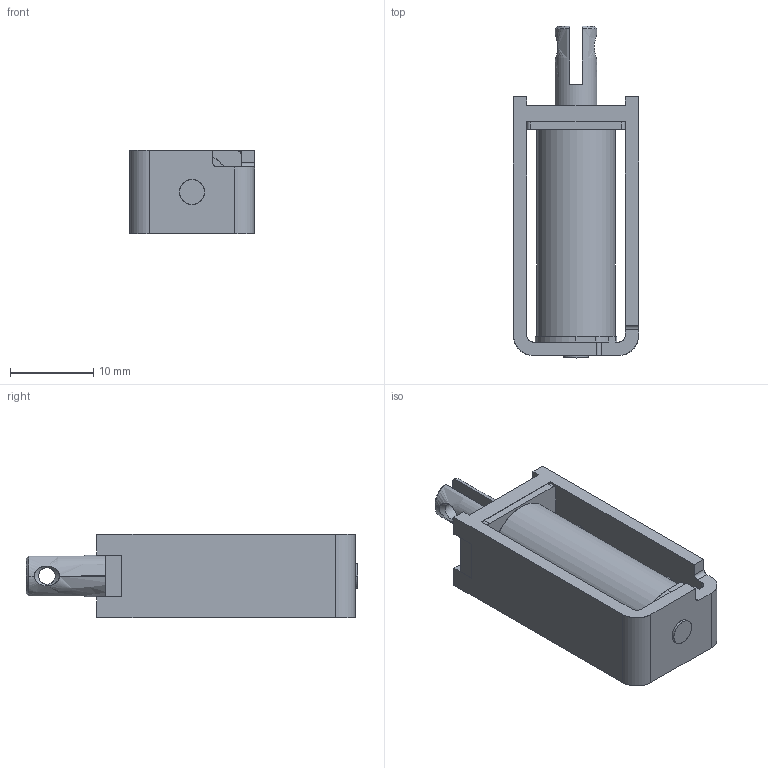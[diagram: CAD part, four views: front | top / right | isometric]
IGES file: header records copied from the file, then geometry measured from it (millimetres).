
Start section: SolidWorks IGES file using analytic representation for surfaces
Global section: file name: L:\カタログ\web用3Dデータ\CA0531\3D_CA0531\w_ca0531.IGS; native system: SolidWorks 2014; preprocessor: SolidWorks 2014; author: jiba; date: 140708.114304; units: millimetre
Bounding box: 15 x 39.8 x 10 mm (x, y, z)
Surface area: 3443.1 mm2 (no closed solid volume)
Topology: 0 solids, 0 shells, 93 faces, 1229 edges, 1229 vertices
Faces by surface type: bspline 50, revolution 43
